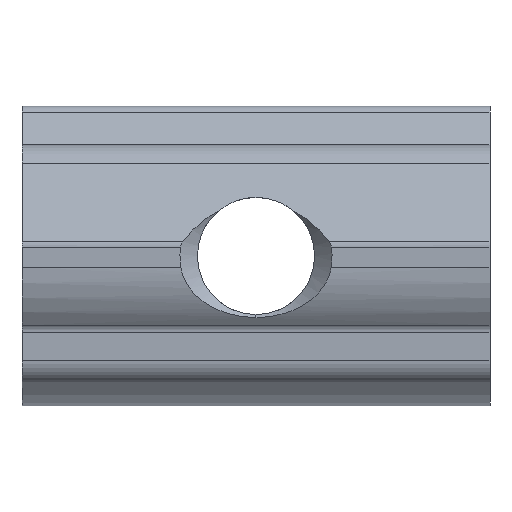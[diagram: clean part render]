
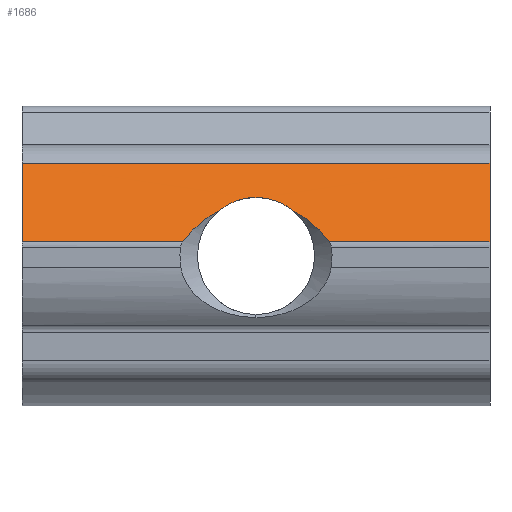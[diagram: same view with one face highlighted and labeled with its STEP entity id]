
A CAD part, front view. The second image highlights one B-rep face of the part: STEP entity #1686.
In plain terms, the highlighted planar face has unit normal (0, -0.883, 0.469).
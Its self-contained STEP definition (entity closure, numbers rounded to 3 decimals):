
#316=CARTESIAN_POINT('',(14.302,9.778,13.033));
#317=VERTEX_POINT('',#316);
#325=CARTESIAN_POINT('',(14.302,7.998,9.685));
#326=VERTEX_POINT('',#325);
#327=CARTESIAN_POINT('',(14.302,7.998,9.685));
#328=DIRECTION('',(0.0,0.469,0.883));
#329=VECTOR('',#328,3.791);
#330=LINE('',#327,#329);
#331=EDGE_CURVE('',#326,#317,#330,.T.);
#1297=CARTESIAN_POINT('',(4.302,9.002,11.575));
#1298=VERTEX_POINT('',#1297);
#1305=CARTESIAN_POINT('',(2.69,8.69,10.986));
#1306=VERTEX_POINT('',#1305);
#1307=CARTESIAN_POINT('',(2.69,8.69,10.986));
#1308=CARTESIAN_POINT('',(3.002,8.83,11.249));
#1309=CARTESIAN_POINT('',(3.391,8.933,11.443));
#1310=CARTESIAN_POINT('',(3.812,8.977,11.527));
#1311=CARTESIAN_POINT('',(3.973,8.994,11.559));
#1312=CARTESIAN_POINT('',(4.137,9.003,11.575));
#1313=CARTESIAN_POINT('',(4.302,9.003,11.575));
#1314=B_SPLINE_CURVE_WITH_KNOTS('',3,(#1307,#1308,#1309,#1310,#1311,#1312,#1313),.UNSPECIFIED.,.F.,.U.,(4,3,4),(0.0,0.332,0.458),.UNSPECIFIED.);
#1315=EDGE_CURVE('',#1306,#1298,#1314,.T.);
#1341=CARTESIAN_POINT('',(-5.698,9.778,13.033));
#1342=VERTEX_POINT('',#1341);
#1350=CARTESIAN_POINT('',(14.302,9.778,13.033));
#1351=DIRECTION('',(-1.0,0.0,0.0));
#1352=VECTOR('',#1351,20.0);
#1353=LINE('',#1350,#1352);
#1354=EDGE_CURVE('',#317,#1342,#1353,.T.);
#1368=CARTESIAN_POINT('',(-5.698,7.998,9.685));
#1369=VERTEX_POINT('',#1368);
#1385=CARTESIAN_POINT('',(1.169,7.998,9.685));
#1386=VERTEX_POINT('',#1385);
#1394=CARTESIAN_POINT('',(-5.698,7.998,9.685));
#1395=DIRECTION('',(1.0,0.,0.));
#1396=VECTOR('',#1395,6.867);
#1397=LINE('',#1394,#1396);
#1398=EDGE_CURVE('',#1369,#1386,#1397,.T.);
#1448=CARTESIAN_POINT('',(7.434,7.998,9.685));
#1449=VERTEX_POINT('',#1448);
#1457=CARTESIAN_POINT('',(5.914,8.69,10.986));
#1458=VERTEX_POINT('',#1457);
#1459=CARTESIAN_POINT('',(7.434,7.998,9.685));
#1460=CARTESIAN_POINT('',(7.11,8.232,10.126));
#1461=CARTESIAN_POINT('',(6.701,8.443,10.521));
#1462=CARTESIAN_POINT('',(6.213,8.602,10.82));
#1463=CARTESIAN_POINT('',(6.116,8.633,10.879));
#1464=CARTESIAN_POINT('',(6.016,8.663,10.935));
#1465=CARTESIAN_POINT('',(5.914,8.69,10.986));
#1466=B_SPLINE_CURVE_WITH_KNOTS('',3,(#1459,#1460,#1461,#1462,#1463,#1464,#1465),.UNSPECIFIED.,.F.,.U.,(4,3,4),(0.0,0.835,1.0),.UNSPECIFIED.);
#1467=EDGE_CURVE('',#1449,#1458,#1466,.T.);
#1552=CARTESIAN_POINT('',(-5.698,9.778,13.033));
#1553=DIRECTION('',(0.0,-0.469,-0.883));
#1554=VECTOR('',#1553,3.791);
#1555=LINE('',#1552,#1554);
#1556=EDGE_CURVE('',#1342,#1369,#1555,.T.);
#1644=CARTESIAN_POINT('',(14.302,7.998,9.685));
#1645=DIRECTION('',(-1.0,0.,0.));
#1646=VECTOR('',#1645,6.867);
#1647=LINE('',#1644,#1646);
#1648=EDGE_CURVE('',#326,#1449,#1647,.T.);
#1655=CARTESIAN_POINT('',(14.302,8.888,11.359));
#1656=DIRECTION('',(0.0,-0.883,0.469));
#1657=DIRECTION('',(0.0,-0.469,-0.883));
#1658=AXIS2_PLACEMENT_3D('',#1655,#1656,#1657);
#1659=PLANE('',#1658);
#1660=ORIENTED_EDGE('',*,*,#1398,.T.);
#1661=CARTESIAN_POINT('',(1.169,7.998,9.685));
#1662=CARTESIAN_POINT('',(1.558,8.279,10.213));
#1663=CARTESIAN_POINT('',(2.069,8.525,10.677));
#1664=CARTESIAN_POINT('',(2.69,8.69,10.986));
#1665=QUASI_UNIFORM_CURVE('',3,(#1661,#1662,#1663,#1664),.UNSPECIFIED.,.F.,.U.);
#1666=EDGE_CURVE('',#1386,#1306,#1665,.T.);
#1667=ORIENTED_EDGE('',*,*,#1666,.T.);
#1668=ORIENTED_EDGE('',*,*,#1315,.T.);
#1669=CARTESIAN_POINT('',(4.302,9.003,11.575));
#1670=CARTESIAN_POINT('',(4.742,9.003,11.575));
#1671=CARTESIAN_POINT('',(5.18,8.939,11.454));
#1672=CARTESIAN_POINT('',(5.549,8.826,11.242));
#1673=CARTESIAN_POINT('',(5.679,8.786,11.167));
#1674=CARTESIAN_POINT('',(5.801,8.74,11.081));
#1675=CARTESIAN_POINT('',(5.914,8.69,10.986));
#1676=B_SPLINE_CURVE_WITH_KNOTS('',3,(#1669,#1670,#1671,#1672,#1673,#1674,#1675),.UNSPECIFIED.,.F.,.U.,(4,3,4),(0.458,0.859,1.0),.UNSPECIFIED.);
#1677=EDGE_CURVE('',#1298,#1458,#1676,.T.);
#1678=ORIENTED_EDGE('',*,*,#1677,.T.);
#1679=ORIENTED_EDGE('',*,*,#1467,.F.);
#1680=ORIENTED_EDGE('',*,*,#1648,.F.);
#1681=ORIENTED_EDGE('',*,*,#331,.T.);
#1682=ORIENTED_EDGE('',*,*,#1354,.T.);
#1683=ORIENTED_EDGE('',*,*,#1556,.T.);
#1684=EDGE_LOOP('',(#1660,#1667,#1668,#1678,#1679,#1680,#1681,#1682,#1683));
#1685=FACE_OUTER_BOUND('',#1684,.T.);
#1686=ADVANCED_FACE('',(#1685),#1659,.T.);
